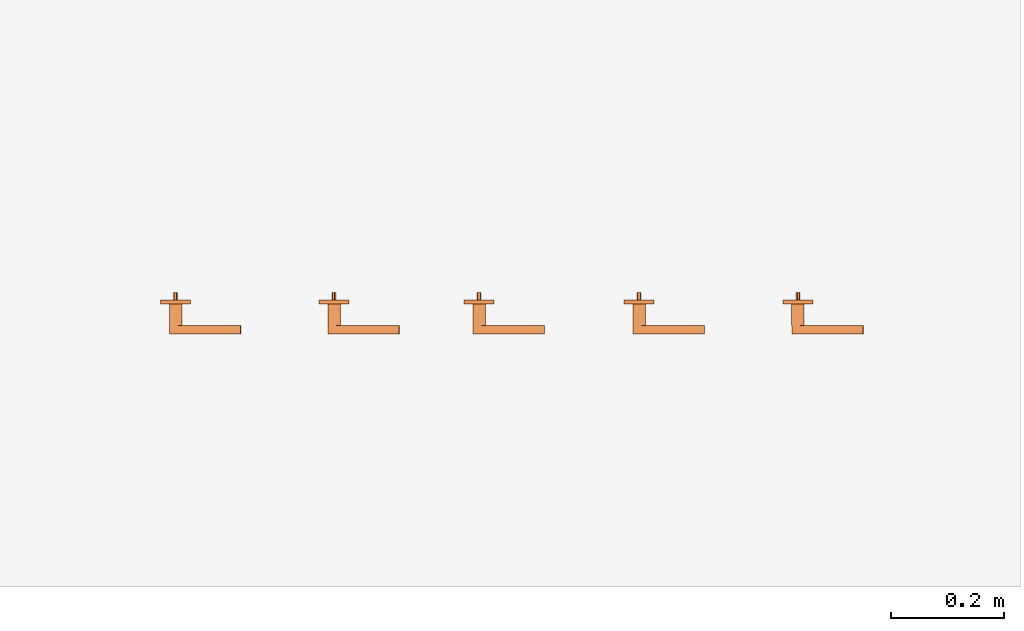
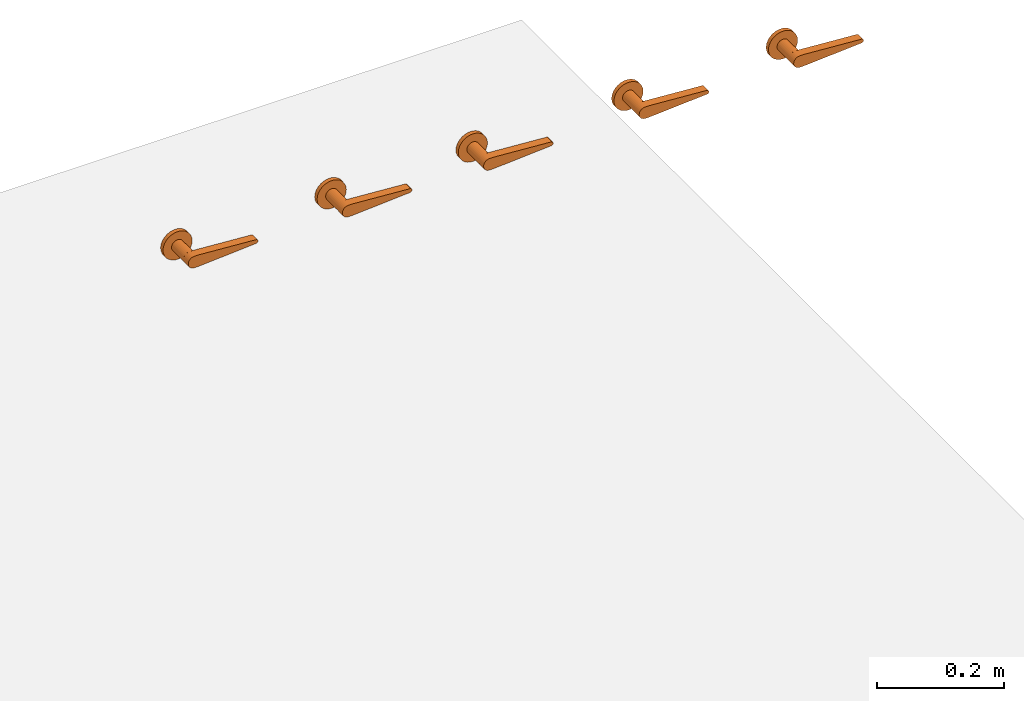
# One storey, part 2 of 2: 5 proxies.
"""IFC2X3 building model written with IfcOpenShell, lengths in millimetres."""

from ifc_helpers import new_model, entity, si_unit, converted_unit, derived_unit, direction, frame, frame_2d, origin, origin_2d_with_axis, place, context, subcontext, project, spatial, polyline, circle_curve, parameter, trimmed, segment, composite_curve, circle, outline, extrude, source, transform, mapped, material, type_object, type_shapes, element, save


model = new_model("IFC2X3")

# Units and contexts
model_context = context("Model", 3, precision=0.01, world=origin(), true_north=direction((6.12303176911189e-17, 1.0)))
context_of_model = context(None, 3, precision=0.01, world=origin(), true_north=direction((6.12303176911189e-17, 1.0)))
body_context = subcontext(model_context, "Body", "Model", "MODEL_VIEW")
ifc_project = project(units=[si_unit("LENGTHUNIT", "METRE", prefix="MILLI"), si_unit("AREAUNIT", "SQUARE_METRE"), si_unit("VOLUMEUNIT", "CUBIC_METRE"), converted_unit("PLANEANGLEUNIT", "DEGREE", entity("IfcRatioMeasure", 0.0174532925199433), si_unit("PLANEANGLEUNIT", "RADIAN"), dimensions=[0, 0, 0, 0, 0, 0, 0]), si_unit("MASSUNIT", "GRAM", prefix="KILO"), derived_unit("MASSDENSITYUNIT", [(si_unit("MASSUNIT", "GRAM", prefix="KILO"), 1), (si_unit("LENGTHUNIT", "METRE"), -3)]), si_unit("TIMEUNIT", "SECOND"), si_unit("FREQUENCYUNIT", "HERTZ"), si_unit("THERMODYNAMICTEMPERATUREUNIT", "DEGREE_CELSIUS"), derived_unit("THERMALTRANSMITTANCEUNIT", [(si_unit("MASSUNIT", "GRAM", prefix="KILO"), 1), (si_unit("THERMODYNAMICTEMPERATUREUNIT", "KELVIN"), -1), (si_unit("TIMEUNIT", "SECOND"), -3)]), derived_unit("VOLUMETRICFLOWRATEUNIT", [(si_unit("LENGTHUNIT", "METRE"), 3), (si_unit("TIMEUNIT", "SECOND"), -1)]), si_unit("ELECTRICCURRENTUNIT", "AMPERE"), si_unit("ELECTRICVOLTAGEUNIT", "VOLT"), si_unit("POWERUNIT", "WATT"), si_unit("FORCEUNIT", "NEWTON", prefix="KILO"), si_unit("ILLUMINANCEUNIT", "LUX"), si_unit("LUMINOUSFLUXUNIT", "LUMEN"), si_unit("LUMINOUSINTENSITYUNIT", "CANDELA"), derived_unit("USERDEFINED", [(si_unit("MASSUNIT", "GRAM", prefix="KILO"), -1), (si_unit("LENGTHUNIT", "METRE"), -2), (si_unit("TIMEUNIT", "SECOND"), 3), (si_unit("LUMINOUSFLUXUNIT", "LUMEN"), 1)]), derived_unit("LINEARVELOCITYUNIT", [(si_unit("LENGTHUNIT", "METRE"), 1), (si_unit("TIMEUNIT", "SECOND"), -1)]), si_unit("PRESSUREUNIT", "PASCAL"), derived_unit("USERDEFINED", [(si_unit("LENGTHUNIT", "METRE"), -2), (si_unit("MASSUNIT", "GRAM", prefix="KILO"), 1), (si_unit("TIMEUNIT", "SECOND"), -2)])], contexts=[model_context, context_of_model])

# Site, building, storey
site_placement = place(None, origin())
site = spatial("IfcSite", under=ifc_project, at=site_placement, Name="Default", CompositionType="ELEMENT")
building_placement = place(site_placement, origin())
building = spatial("IfcBuilding", under=site, at=building_placement, Name="n/a", CompositionType="ELEMENT")
storey_placement = place(building_placement, origin())
storey = spatial("IfcBuildingStorey", under=building, at=storey_placement, Name="Level 0", CompositionType="ELEMENT", Elevation=0.0)

# Proxies
ifc_material_1 = material(Name="DBLTD_Duten_Metal_BrushedBrass")
building_element_proxy_type_1 = type_object("IfcBuildingElementProxyType", PredefinedType="NOTDEFINED", material=ifc_material_1)
shared_shape_1 = source(origin(), body_context, "Body", "SweptSolid", [
    extrude(circle(Radius=3.50000000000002, at=origin_2d_with_axis()), frame((-52.5000000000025, 30.0, 1000.0), z_axis=(0.0, 1.0, 0.0), x_axis=(1.0, 0.0, 0.0)), (0.0, 0.0, 1.0), 13.0),
    extrude(circle(Radius=11.0, at=origin_2d_with_axis()), frame((-52.5000000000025, -15.0, 1000.0), z_axis=(0.0, 1.0, 0.0), x_axis=(1.0, 0.0, 0.0)), (0.0, 0.0, 1.0), 37.5000000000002),
    extrude(outline(composite_curve([segment(trimmed(circle_curve(frame_2d((-31.7558022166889, 0.0), x_axis=(1.0, 0.0)), 11.0), [parameter(90.0000000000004)], [parameter(270.0)], True, "PARAMETER"), True, "CONTINUOUS"), segment(polyline([(-31.7558022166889, -11.0), (-28.8359965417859, -11.0)]), True, "CONTINUOUS"), segment(trimmed(circle_curve(frame_2d((-28.8359965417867, 120.260965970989), x_axis=(1.0, 0.0)), 131.260965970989), [parameter(270.0)], [parameter(274.0)], True, "PARAMETER"), True, "CONTINUOUS"), segment(polyline([(-19.6796944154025, -10.6802548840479), (80.2714931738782, -3.69098698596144)]), True, "CONTINUOUS"), segment(trimmed(circle_curve(frame_2d((80.0133942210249, 0.0), x_axis=(1.0, 0.0)), 3.7), [parameter(274.000000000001)], [parameter(86.0)], True, "PARAMETER"), True, "CONTINUOUS"), segment(polyline([(80.2714931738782, 3.69098698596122), (-19.6796944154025, 10.6802548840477)]), True, "CONTINUOUS"), segment(trimmed(circle_curve(frame_2d((-28.8359965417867, -120.260965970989), x_axis=(1.0, 0.0)), 131.260965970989), [parameter(85.9999999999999)], [parameter(90.0000000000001)], True, "PARAMETER"), True, "CONTINUOUS"), segment(polyline([(-28.8359965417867, 11.0), (-31.755802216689, 11.0)]), True, "CONTINUOUS")], self_intersect=False)), frame((-20.7441977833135, -30.0, 1000.0), z_axis=(0.0, 1.0, 0.0), x_axis=(1.0, 0.0, 0.0)), (0.0, 0.0, 1.0), 15.0),
    extrude(circle(Radius=26.5, at=origin_2d_with_axis()), frame((-52.5000000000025, 22.5000000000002, 1000.0), z_axis=(0.0, 1.0, 0.0), x_axis=(1.0, 0.0, 0.0)), (0.0, 0.0, 1.0), 7.49999999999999),
])
type_shapes(building_element_proxy_type_1, [shared_shape_1])
proxy_1_placement = place(storey_placement, frame((2179.96075693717, -12.789622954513, 0.0)))
element("IfcBuildingElementProxy", 1, at=proxy_1_placement, inside=storey, type_object=building_element_proxy_type_1, material=ifc_material_1, Name="(7)", ObjectType="DBLTD_Duten_DoorLeverHandleSets_Q925:Brushed Brass Door Handle", context=body_context, shape_type="MappedRepresentation", body=[
    mapped(shared_shape_1, transform((0.0, 0.0, 0.0), scale=1.0)),
])
ifc_material_2 = material(Name="DBLTD_Duten_Metal_BrushedCopper")
building_element_proxy_type_2 = type_object("IfcBuildingElementProxyType", PredefinedType="NOTDEFINED", material=ifc_material_2)
shared_shape_2 = source(origin(), body_context, "Body", "SweptSolid", [
    extrude(circle(Radius=3.50000000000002, at=origin_2d_with_axis()), frame((-52.5000000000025, 30.0, 1000.0), z_axis=(0.0, 1.0, 0.0), x_axis=(1.0, 0.0, 0.0)), (0.0, 0.0, 1.0), 13.0),
    extrude(circle(Radius=11.0, at=origin_2d_with_axis()), frame((-52.5000000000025, -15.0, 1000.0), z_axis=(0.0, 1.0, 0.0), x_axis=(1.0, 0.0, 0.0)), (0.0, 0.0, 1.0), 37.5000000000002),
    extrude(outline(composite_curve([segment(trimmed(circle_curve(frame_2d((-31.7558022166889, 0.0), x_axis=(1.0, 0.0)), 11.0), [parameter(90.0000000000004)], [parameter(270.0)], True, "PARAMETER"), True, "CONTINUOUS"), segment(polyline([(-31.7558022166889, -11.0), (-28.8359965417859, -11.0)]), True, "CONTINUOUS"), segment(trimmed(circle_curve(frame_2d((-28.8359965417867, 120.260965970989), x_axis=(1.0, 0.0)), 131.260965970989), [parameter(270.0)], [parameter(274.0)], True, "PARAMETER"), True, "CONTINUOUS"), segment(polyline([(-19.6796944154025, -10.6802548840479), (80.2714931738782, -3.69098698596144)]), True, "CONTINUOUS"), segment(trimmed(circle_curve(frame_2d((80.0133942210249, 0.0), x_axis=(1.0, 0.0)), 3.7), [parameter(274.000000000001)], [parameter(86.0)], True, "PARAMETER"), True, "CONTINUOUS"), segment(polyline([(80.2714931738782, 3.69098698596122), (-19.6796944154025, 10.6802548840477)]), True, "CONTINUOUS"), segment(trimmed(circle_curve(frame_2d((-28.8359965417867, -120.260965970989), x_axis=(1.0, 0.0)), 131.260965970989), [parameter(85.9999999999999)], [parameter(90.0000000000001)], True, "PARAMETER"), True, "CONTINUOUS"), segment(polyline([(-28.8359965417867, 11.0), (-31.755802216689, 11.0)]), True, "CONTINUOUS")], self_intersect=False)), frame((-20.7441977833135, -30.0, 1000.0), z_axis=(0.0, 1.0, 0.0), x_axis=(1.0, 0.0, 0.0)), (0.0, 0.0, 1.0), 15.0),
    extrude(circle(Radius=26.5, at=origin_2d_with_axis()), frame((-52.5000000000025, 22.5000000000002, 1000.0), z_axis=(0.0, 1.0, 0.0), x_axis=(1.0, 0.0, 0.0)), (0.0, 0.0, 1.0), 7.49999999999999),
])
type_shapes(building_element_proxy_type_2, [shared_shape_2])
proxy_2_placement = place(storey_placement, frame((2459.43354036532, -12.789622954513, 0.0)))
element("IfcBuildingElementProxy", 2, at=proxy_2_placement, inside=storey, type_object=building_element_proxy_type_2, material=ifc_material_2, Name="(9)", ObjectType="DBLTD_Duten_DoorLeverHandleSets_Q925:Brushed Copper Door Handle", context=body_context, shape_type="MappedRepresentation", body=[
    mapped(shared_shape_2, transform((0.0, 0.0, 0.0), scale=1.0)),
])
ifc_material_3 = material(Name="DBLTD_Duten_Metal_BrushedStainlessSteel")
building_element_proxy_type_3 = type_object("IfcBuildingElementProxyType", PredefinedType="NOTDEFINED", material=ifc_material_3)
shared_shape_3 = source(origin(), body_context, "Body", "SweptSolid", [
    extrude(circle(Radius=3.50000000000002, at=origin_2d_with_axis()), frame((-52.5000000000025, 30.0, 1000.0), z_axis=(0.0, 1.0, 0.0), x_axis=(1.0, 0.0, 0.0)), (0.0, 0.0, 1.0), 13.0),
    extrude(circle(Radius=11.0, at=origin_2d_with_axis()), frame((-52.5000000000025, -15.0, 1000.0), z_axis=(0.0, 1.0, 0.0), x_axis=(1.0, 0.0, 0.0)), (0.0, 0.0, 1.0), 37.5000000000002),
    extrude(outline(composite_curve([segment(trimmed(circle_curve(frame_2d((-31.7558022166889, 0.0), x_axis=(1.0, 0.0)), 11.0), [parameter(90.0000000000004)], [parameter(270.0)], True, "PARAMETER"), True, "CONTINUOUS"), segment(polyline([(-31.7558022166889, -11.0), (-28.8359965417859, -11.0)]), True, "CONTINUOUS"), segment(trimmed(circle_curve(frame_2d((-28.8359965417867, 120.260965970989), x_axis=(1.0, 0.0)), 131.260965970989), [parameter(270.0)], [parameter(274.0)], True, "PARAMETER"), True, "CONTINUOUS"), segment(polyline([(-19.6796944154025, -10.6802548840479), (80.2714931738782, -3.69098698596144)]), True, "CONTINUOUS"), segment(trimmed(circle_curve(frame_2d((80.0133942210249, 0.0), x_axis=(1.0, 0.0)), 3.7), [parameter(274.000000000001)], [parameter(86.0)], True, "PARAMETER"), True, "CONTINUOUS"), segment(polyline([(80.2714931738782, 3.69098698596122), (-19.6796944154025, 10.6802548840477)]), True, "CONTINUOUS"), segment(trimmed(circle_curve(frame_2d((-28.8359965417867, -120.260965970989), x_axis=(1.0, 0.0)), 131.260965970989), [parameter(85.9999999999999)], [parameter(90.0000000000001)], True, "PARAMETER"), True, "CONTINUOUS"), segment(polyline([(-28.8359965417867, 11.0), (-31.755802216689, 11.0)]), True, "CONTINUOUS")], self_intersect=False)), frame((-20.7441977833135, -30.0, 1000.0), z_axis=(0.0, 1.0, 0.0), x_axis=(1.0, 0.0, 0.0)), (0.0, 0.0, 1.0), 15.0),
    extrude(circle(Radius=26.5, at=origin_2d_with_axis()), frame((-52.5000000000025, 22.5000000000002, 1000.0), z_axis=(0.0, 1.0, 0.0), x_axis=(1.0, 0.0, 0.0)), (0.0, 0.0, 1.0), 7.49999999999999),
])
type_shapes(building_element_proxy_type_3, [shared_shape_3])
proxy_3_placement = place(storey_placement, frame((2715.47746769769, -12.789622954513, 0.0)))
element("IfcBuildingElementProxy", 3, at=proxy_3_placement, inside=storey, type_object=building_element_proxy_type_3, material=ifc_material_3, Name="(11)", ObjectType="DBLTD_Duten_DoorLeverHandleSets_Q925:Brushed Stainless Steel Door Handle", context=body_context, shape_type="MappedRepresentation", body=[
    mapped(shared_shape_3, transform((0.0, 0.0, 0.0), scale=1.0)),
])
ifc_material_4 = material(Name="DBLTD_Duten_Metal_Chrome")
building_element_proxy_type_4 = type_object("IfcBuildingElementProxyType", PredefinedType="NOTDEFINED", material=ifc_material_4)
shared_shape_4 = source(origin(), body_context, "Body", "SweptSolid", [
    extrude(circle(Radius=3.50000000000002, at=origin_2d_with_axis()), frame((-52.5000000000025, 30.0, 1000.0), z_axis=(0.0, 1.0, 0.0), x_axis=(1.0, 0.0, 0.0)), (0.0, 0.0, 1.0), 13.0),
    extrude(circle(Radius=11.0, at=origin_2d_with_axis()), frame((-52.5000000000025, -15.0, 1000.0), z_axis=(0.0, 1.0, 0.0), x_axis=(1.0, 0.0, 0.0)), (0.0, 0.0, 1.0), 37.5000000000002),
    extrude(outline(composite_curve([segment(trimmed(circle_curve(frame_2d((-31.7558022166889, 0.0), x_axis=(1.0, 0.0)), 11.0), [parameter(90.0000000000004)], [parameter(270.0)], True, "PARAMETER"), True, "CONTINUOUS"), segment(polyline([(-31.7558022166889, -11.0), (-28.8359965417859, -11.0)]), True, "CONTINUOUS"), segment(trimmed(circle_curve(frame_2d((-28.8359965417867, 120.260965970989), x_axis=(1.0, 0.0)), 131.260965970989), [parameter(270.0)], [parameter(274.0)], True, "PARAMETER"), True, "CONTINUOUS"), segment(polyline([(-19.6796944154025, -10.6802548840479), (80.2714931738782, -3.69098698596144)]), True, "CONTINUOUS"), segment(trimmed(circle_curve(frame_2d((80.0133942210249, 0.0), x_axis=(1.0, 0.0)), 3.7), [parameter(274.000000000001)], [parameter(86.0)], True, "PARAMETER"), True, "CONTINUOUS"), segment(polyline([(80.2714931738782, 3.69098698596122), (-19.6796944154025, 10.6802548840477)]), True, "CONTINUOUS"), segment(trimmed(circle_curve(frame_2d((-28.8359965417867, -120.260965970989), x_axis=(1.0, 0.0)), 131.260965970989), [parameter(85.9999999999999)], [parameter(90.0000000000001)], True, "PARAMETER"), True, "CONTINUOUS"), segment(polyline([(-28.8359965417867, 11.0), (-31.755802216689, 11.0)]), True, "CONTINUOUS")], self_intersect=False)), frame((-20.7441977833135, -30.0, 1000.0), z_axis=(0.0, 1.0, 0.0), x_axis=(1.0, 0.0, 0.0)), (0.0, 0.0, 1.0), 15.0),
    extrude(circle(Radius=26.5, at=origin_2d_with_axis()), frame((-52.5000000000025, 22.5000000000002, 1000.0), z_axis=(0.0, 1.0, 0.0), x_axis=(1.0, 0.0, 0.0)), (0.0, 0.0, 1.0), 7.49999999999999),
])
type_shapes(building_element_proxy_type_4, [shared_shape_4])
proxy_4_placement = place(storey_placement, frame((2997.7304904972, -12.789622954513, 0.0)))
element("IfcBuildingElementProxy", 4, at=proxy_4_placement, inside=storey, type_object=building_element_proxy_type_4, material=ifc_material_4, Name="(13)", ObjectType="DBLTD_Duten_DoorLeverHandleSets_Q925:Chrome Door Handle", context=body_context, shape_type="MappedRepresentation", body=[
    mapped(shared_shape_4, transform((0.0, 0.0, 0.0), scale=1.0)),
])
ifc_material_5 = material(Name="DBLTD_Duten_Metal_MatteBlack")
building_element_proxy_type_5 = type_object("IfcBuildingElementProxyType", PredefinedType="NOTDEFINED", material=ifc_material_5)
shared_shape_5 = source(origin(), body_context, "Body", "SweptSolid", [
    extrude(circle(Radius=3.50000000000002, at=origin_2d_with_axis()), frame((-52.5000000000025, 30.0, 1000.0), z_axis=(0.0, 1.0, 0.0), x_axis=(1.0, 0.0, 0.0)), (0.0, 0.0, 1.0), 13.0),
    extrude(circle(Radius=11.0, at=origin_2d_with_axis()), frame((-52.5000000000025, -15.0, 1000.0), z_axis=(0.0, 1.0, 0.0), x_axis=(1.0, 0.0, 0.0)), (0.0, 0.0, 1.0), 37.5000000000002),
    extrude(outline(composite_curve([segment(trimmed(circle_curve(frame_2d((-31.7558022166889, 0.0), x_axis=(1.0, 0.0)), 11.0), [parameter(90.0000000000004)], [parameter(270.0)], True, "PARAMETER"), True, "CONTINUOUS"), segment(polyline([(-31.7558022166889, -11.0), (-28.8359965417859, -11.0)]), True, "CONTINUOUS"), segment(trimmed(circle_curve(frame_2d((-28.8359965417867, 120.260965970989), x_axis=(1.0, 0.0)), 131.260965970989), [parameter(270.0)], [parameter(274.0)], True, "PARAMETER"), True, "CONTINUOUS"), segment(polyline([(-19.6796944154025, -10.6802548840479), (80.2714931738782, -3.69098698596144)]), True, "CONTINUOUS"), segment(trimmed(circle_curve(frame_2d((80.0133942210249, 0.0), x_axis=(1.0, 0.0)), 3.7), [parameter(274.000000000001)], [parameter(86.0)], True, "PARAMETER"), True, "CONTINUOUS"), segment(polyline([(80.2714931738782, 3.69098698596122), (-19.6796944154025, 10.6802548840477)]), True, "CONTINUOUS"), segment(trimmed(circle_curve(frame_2d((-28.8359965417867, -120.260965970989), x_axis=(1.0, 0.0)), 131.260965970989), [parameter(85.9999999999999)], [parameter(90.0000000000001)], True, "PARAMETER"), True, "CONTINUOUS"), segment(polyline([(-28.8359965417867, 11.0), (-31.755802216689, 11.0)]), True, "CONTINUOUS")], self_intersect=False)), frame((-20.7441977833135, -30.0, 1000.0), z_axis=(0.0, 1.0, 0.0), x_axis=(1.0, 0.0, 0.0)), (0.0, 0.0, 1.0), 15.0),
    extrude(circle(Radius=26.5, at=origin_2d_with_axis()), frame((-52.5000000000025, 22.5000000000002, 1000.0), z_axis=(0.0, 1.0, 0.0), x_axis=(1.0, 0.0, 0.0)), (0.0, 0.0, 1.0), 7.49999999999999),
])
type_shapes(building_element_proxy_type_5, [shared_shape_5])
proxy_5_placement = place(storey_placement, frame((3277.8797199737, -12.789622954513, 0.0)))
element("IfcBuildingElementProxy", 5, at=proxy_5_placement, inside=storey, type_object=building_element_proxy_type_5, material=ifc_material_5, Name="(15)", ObjectType="DBLTD_Duten_DoorLeverHandleSets_Q925:Matte Black Door Handle", context=body_context, shape_type="MappedRepresentation", body=[
    mapped(shared_shape_5, transform((0.0, 0.0, 0.0), scale=1.0)),
])

save(model, "model.ifc")
